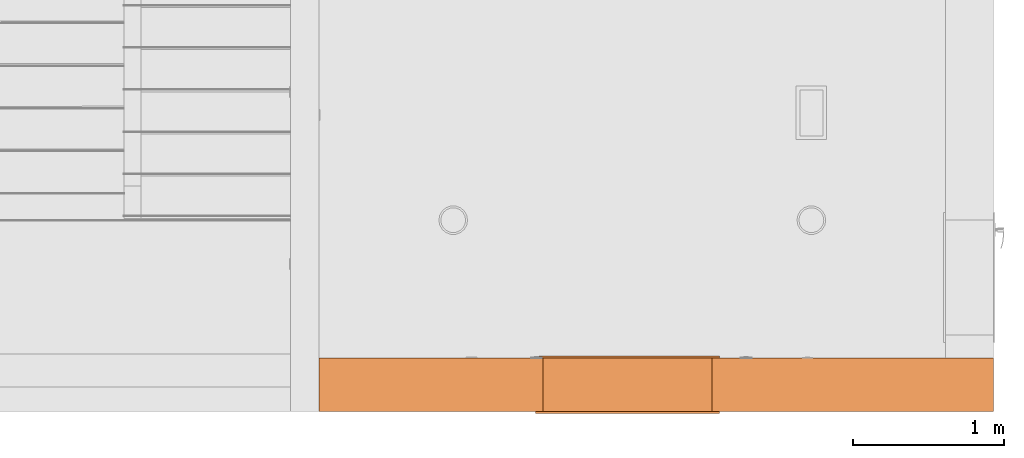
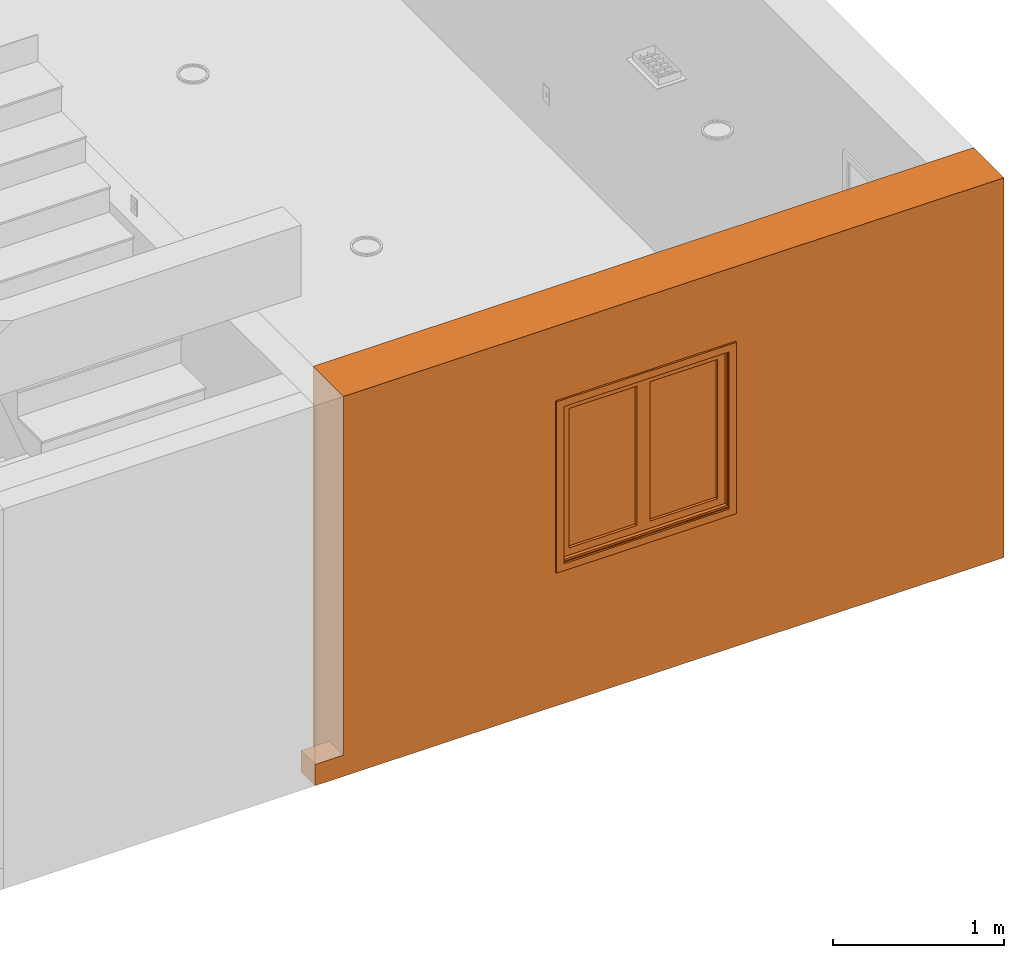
# One storey, part 36 of 48: 2 proxies.
"""IFC2X3 building model written with IfcOpenShell, lengths in inches."""

import ifcopenshell
import ifcopenshell.guid

model = None  # the IFC model being written
_history = None  # IfcOwnerHistory: only IFC2X3 demands one
_inside = {}  # id of a spatial element -> (the spatial element, [elements in it])
_under = {}  # id of a project, library or spatial element -> (it, [spatial elements below it])
_declared = {}  # id of a project -> (the project, [libraries it declares])
_typed = {}  # id of a type object -> (the type object, [elements of that type])
_made_of = {}  # id of a material, layer set ... -> (it, [elements and type objects made of it])


def new_model(schema):
    """Start an empty IFC model of exactly this schema.

    Asked for "IFC4X3", IfcOpenShell would pick the latest addendum, in which some entities
    have other attributes; the version numbers below select the first issue.
    IFC2X3 requires an IfcOwnerHistory on every rooted entity: one is made here for all.
    """
    global model, _history
    if schema == "IFC4X3":
        model = ifcopenshell.file(schema_version=(4, 3, 0, 0))
    else:
        model = ifcopenshell.file(schema=schema)
    _inside.clear()
    _under.clear()
    _declared.clear()
    _typed.clear()
    _made_of.clear()
    _history = None
    if model.schema == "IFC2X3":
        org = make("IfcOrganization", Name="unknown")
        user = make(
            "IfcPersonAndOrganization",
            ThePerson=make("IfcPerson", FamilyName="unknown"),
            TheOrganization=org,
        )
        app = make(
            "IfcApplication",
            ApplicationDeveloper=org,
            Version="unknown",
            ApplicationFullName="unknown",
            ApplicationIdentifier="unknown",
        )
        _history = make(
            "IfcOwnerHistory",
            OwningUser=user,
            OwningApplication=app,
            ChangeAction="ADDED",
            CreationDate=0,
        )
    return model


def make(cls, **values):
    """One entity of the class cls with the attributes given. An attribute that is None is left unset."""
    return model.create_entity(
        cls, **{name: value for name, value in values.items() if value is not None}
    )


def entity(cls, *values):
    """Any entity or typed value of the class cls, its attributes in the order of the schema. None: left unset."""
    e = model.create_entity(cls)
    for i, value in enumerate(values):
        if value is not None:
            e[i] = value
    return e


def rooted(cls, **values):
    """An entity with a GlobalId (a new one), such as an element, a storey or a relation."""
    return make(cls, GlobalId=ifcopenshell.guid.new(), OwnerHistory=_history, **values)


def si_unit(unit_type, name, prefix=None):
    """IfcSIUnit, for example si_unit("LENGTHUNIT", "METRE", prefix="MILLI")."""
    return make("IfcSIUnit", UnitType=unit_type, Prefix=prefix, Name=name)


def converted_unit(unit_type, name, factor, base, dimensions=None, offset=None):
    """IfcConversionBasedUnit, such as the inch: factor (a typed value) times the base unit."""
    return make(
        "IfcConversionBasedUnit"
        if offset is None
        else "IfcConversionBasedUnitWithOffset",
        ConversionOffset=offset,
        Dimensions=None
        if dimensions is None
        else entity("IfcDimensionalExponents", *dimensions),
        UnitType=unit_type,
        Name=name,
        ConversionFactor=make(
            "IfcMeasureWithUnit", ValueComponent=factor, UnitComponent=base
        ),
    )


def derived_unit(unit_type, elements):
    """IfcDerivedUnit: a product of units, each with its exponent."""
    return make(
        "IfcDerivedUnit",
        Elements=[
            make("IfcDerivedUnitElement", Unit=unit, Exponent=power)
            for unit, power in elements
        ],
        UnitType=unit_type,
    )


def money_unit(currency):
    """IfcMonetaryUnit."""
    return make("IfcMonetaryUnit", Currency=currency)


def assignment(units):
    """IfcUnitAssignment: the units of a project."""
    return None if units is None else make("IfcUnitAssignment", Units=units)


def point(xyz):
    """IfcCartesianPoint."""
    return None if xyz is None else make("IfcCartesianPoint", Coordinates=xyz)


def direction(xyz):
    """IfcDirection."""
    return None if xyz is None else make("IfcDirection", DirectionRatios=xyz)


def frame(location, z_axis=None, x_axis=None):
    """IfcAxis2Placement3D, a coordinate frame: its origin and axes. An axis left out is left unset."""
    return make(
        "IfcAxis2Placement3D",
        Location=point(location),
        Axis=direction(z_axis),
        RefDirection=direction(x_axis),
    )


def origin_with_axes():
    """The frame at (0, 0, 0) with the z axis (0, 0, 1) and the x axis (1, 0, 0) written out."""
    return frame((0.0, 0.0, 0.0), z_axis=(0.0, 0.0, 1.0), x_axis=(1.0, 0.0, 0.0))


def place(relative_to, where):
    """IfcLocalPlacement: puts the frame where relative to a parent placement (None: the world)."""
    return make(
        "IfcLocalPlacement", PlacementRelTo=relative_to, RelativePlacement=where
    )


def context(
    kind, dimensions, precision=None, world=None, true_north=None, identifier=None
):
    """IfcGeometricRepresentationContext, for example the 3D "Model" context."""
    return make(
        "IfcGeometricRepresentationContext",
        ContextIdentifier=identifier,
        ContextType=kind,
        CoordinateSpaceDimension=dimensions,
        Precision=precision,
        WorldCoordinateSystem=world,
        TrueNorth=true_north,
    )


def subcontext(parent, identifier, kind, view, scale=None):
    """IfcGeometricRepresentationSubContext, for example "Body" below "Model"."""
    return make(
        "IfcGeometricRepresentationSubContext",
        ContextIdentifier=identifier,
        ContextType=kind,
        ParentContext=parent,
        TargetScale=scale,
        TargetView=view,
    )


def project(units=None, contexts=None):
    """IfcProject with its units and contexts."""
    return rooted(
        "IfcProject",
        Name="project",
        RepresentationContexts=contexts,
        UnitsInContext=assignment(units),
    )


def spatial(cls, under=None, at=None, **own):
    """A site, building, storey or space (cls), placed at a placement, below another one or the project."""
    s = rooted(cls, ObjectPlacement=at, **own)
    if under is not None:
        _under.setdefault(under.id(), (under, []))[1].append(s)
    return s


def faces_of(points, faces, orient=None, outer=None):
    """IfcFace entities. A face is a list of loops; a loop is a list of indices into points, from 0.

    orient and outer hold one flag for each loop. By default every Orientation is true, the
    first loop of a face is its IfcFaceOuterBound and the others are IfcFaceBound.
    """
    made = []
    for i, loops in enumerate(faces):
        bounds = []
        for j, loop in enumerate(loops):
            is_outer = j == 0 if outer is None else outer[i][j]
            bounds.append(
                make(
                    "IfcFaceOuterBound" if is_outer else "IfcFaceBound",
                    Bound=make("IfcPolyLoop", Polygon=[points[k] for k in loop]),
                    Orientation=True if orient is None else orient[i][j],
                )
            )
        made.append(make("IfcFace", Bounds=bounds))
    return made


def faceted_brep(points, faces, orient=None, outer=None, voids=None):
    """IfcFacetedBrep: a solid bounded by flat faces; with voids (closed shells), ...WithVoids."""
    shared = [point(p) for p in points]
    hull = make("IfcClosedShell", CfsFaces=faces_of(shared, faces, orient, outer))
    if voids is None:
        return make("IfcFacetedBrep", Outer=hull)
    return make(
        "IfcFacetedBrepWithVoids",
        Outer=hull,
        Voids=[
            make(cls, CfsFaces=faces_of(shared, fs, o, b)) for cls, fs, o, b in voids
        ],
    )


def shape(context_of_items, identifier, shape_type, items):
    """IfcShapeRepresentation: the items that make up one representation, for example the "Body"."""
    return make(
        "IfcShapeRepresentation",
        ContextOfItems=context_of_items,
        RepresentationIdentifier=identifier,
        RepresentationType=shape_type,
        Items=items,
    )


def material(Name=None, Category=None):
    """IfcMaterial."""
    return make("IfcMaterial", Name=Name, Category=Category)


def made_of(thing, what):
    """Note that an element or type object is made of a material, layer set ...; save() writes the relation."""
    if what is not None:
        _made_of.setdefault(what.id(), (what, []))[1].append(thing)
    return thing


def type_object(cls, material=None, **own):
    """A type object (cls), such as IfcWallType, which elements share."""
    return made_of(rooted(cls, **own), material)


def element(
    cls,
    number,
    at=None,
    inside=None,
    cuts=None,
    type_object=None,
    material=None,
    context=None,
    identifier="Body",
    shape_type=None,
    held_by="IfcProductDefinitionShape",
    body=None,
    shapes=None,
    **own,
):
    """One element of the class cls, such as IfcWall. Its Tag is "e" and its number.

    at: its placement. inside: the storey or other place that contains it. cuts: it is an
    opening in that element (IfcRelVoidsElement). A single representation is given by context,
    identifier, shape_type and body (its items); several are given by shapes. held_by: the class
    of the entity that holds the representations. save() writes the other relations.
    """
    e = rooted(cls, Tag="e%d" % number, ObjectPlacement=at, **own)
    if body is not None:
        shapes = [shape(context, identifier, shape_type, body)]
    if shapes is not None:
        e.Representation = make(held_by, Representations=shapes)
    if inside is not None:
        _inside.setdefault(inside.id(), (inside, []))[1].append(e)
    if cuts is not None:
        rooted(
            "IfcRelVoidsElement", RelatingBuildingElement=cuts, RelatedOpeningElement=e
        )
    if type_object is not None:
        _typed.setdefault(type_object.id(), (type_object, []))[1].append(e)
    return made_of(e, material)


def aggregate(whole, parts):
    """IfcRelAggregates: a whole, such as a stair, and the parts it consists of."""
    return rooted("IfcRelAggregates", RelatingObject=whole, RelatedObjects=parts)


def save(model, path):
    """Write the relations noted so far, then the file.

    IfcRelAggregates (storeys below a building ...), IfcRelContainedInSpatialStructure (elements
    in a storey), IfcRelDefinesByType, IfcRelAssociatesMaterial and IfcRelDeclares: one each for
    every whole, place, type object, material and project.
    """
    for whole, parts in _under.values():
        aggregate(whole, parts)
    for where, things in _inside.values():
        rooted(
            "IfcRelContainedInSpatialStructure",
            RelatedElements=things,
            RelatingStructure=where,
        )
    for kind, things in _typed.values():
        rooted("IfcRelDefinesByType", RelatedObjects=things, RelatingType=kind)
    for what, things in _made_of.values():
        rooted("IfcRelAssociatesMaterial", RelatedObjects=things, RelatingMaterial=what)
    for by, libraries in _declared.values():
        rooted("IfcRelDeclares", RelatingContext=by, RelatedDefinitions=libraries)
    model.write(path)


model = new_model("IFC2X3")

# Units and contexts
model_context = context("Model", 3, precision=0.00039370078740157, world=origin_with_axes(), true_north=direction((0.0, 1.0)))
plan_context = context("Plan", 3, precision=0.00039370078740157, world=origin_with_axes(), true_north=direction((0.0, 1.0)))
body_context = subcontext(model_context, "Body", "Model", "MODEL_VIEW")
ifc_project = project(units=[converted_unit("LENGTHUNIT", "INCH", entity("IfcPositiveLengthMeasure", 0.0254), si_unit("LENGTHUNIT", "METRE"), dimensions=[1, 0, 0, 0, 0, 0, 0]), converted_unit("AREAUNIT", "SQUARE_FOOT", entity("IfcPositiveLengthMeasure", 0.09290304), si_unit("AREAUNIT", "SQUARE_METRE"), dimensions=[2, 0, 0, 0, 0, 0, 0]), si_unit("PLANEANGLEUNIT", "RADIAN"), si_unit("SOLIDANGLEUNIT", "STERADIAN"), money_unit("USD"), converted_unit("TIMEUNIT", "Year", entity("IfcTimeMeasure", 31557600.0), si_unit("TIMEUNIT", "SECOND"), dimensions=[0, 0, 1, 0, 0, 0, 0]), si_unit("MASSUNIT", "GRAM", prefix="KILO"), si_unit("THERMODYNAMICTEMPERATUREUNIT", "DEGREE_CELSIUS"), si_unit("LUMINOUSINTENSITYUNIT", "LUMEN"), si_unit("ENERGYUNIT", "JOULE", prefix="MEGA"), derived_unit("SPECIFICHEATCAPACITYUNIT", [(si_unit("ENERGYUNIT", "JOULE"), 1), (si_unit("MASSUNIT", "GRAM", prefix="KILO"), -1), (si_unit("THERMODYNAMICTEMPERATUREUNIT", "KELVIN"), -1)])], contexts=[model_context, plan_context])

# Site, building, storey
site_placement = place(None, origin_with_axes())
site = spatial("IfcSite", under=ifc_project, at=site_placement, Name="Site", CompositionType="ELEMENT")
building_placement = place(site_placement, origin_with_axes())
building = spatial("IfcBuilding", under=site, at=building_placement, Name="Building", CompositionType="ELEMENT")
storey_placement = place(building_placement, origin_with_axes())
storey = spatial("IfcBuildingStorey", under=building, at=storey_placement, Name="First Floor", CompositionType="ELEMENT", Elevation=0.0)

# Proxies
building_element_proxy_type_1 = type_object("IfcBuildingElementProxyType", Name="W Double Sash", PredefinedType="NOTDEFINED")
proxy_1_placement = place(storey_placement, frame((354.4999999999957, 14.00000000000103, 33.99999999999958), z_axis=(0.0, 0.0, 1.0), x_axis=(-1.0, 0.0, 0.0)))
element("IfcBuildingElementProxy", 1, at=proxy_1_placement, inside=storey, type_object=building_element_proxy_type_1, Name="W-02", context=body_context, shape_type="Brep", body=[
    faceted_brep([(43.99999999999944, 9.499999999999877, 0.0), (43.99999999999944, 0.0, 0.0), (0.0, 0.0, 0.0), (0.0, 9.499999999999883, 0.0), (43.99999999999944, 9.499999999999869, 43.99999999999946), (43.99999999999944, 0.0, 43.99999999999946), (0.0, 0.0, 43.99999999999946), (43.49999999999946, 0.0, 0.4999999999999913), (0.5000000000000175, 0.0, 0.4999999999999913), (0.5000000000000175, 0.0, 43.49999999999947), (43.49999999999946, 0.0, 43.49999999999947), (0.0, 9.499999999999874, 43.99999999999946), (43.49999999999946, 9.499999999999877, 0.4999999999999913), (43.49999999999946, 9.499999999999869, 43.49999999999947), (0.5000000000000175, 9.499999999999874, 43.49999999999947), (0.5000000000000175, 9.499999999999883, 0.4999999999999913)], [[[0, 1, 2, 3]], [[4, 5, 1, 0]], [[1, 5, 6, 2], [7, 8, 9, 10]], [[3, 2, 6, 11]], [[0, 3, 11, 4], [12, 13, 14, 15]], [[11, 6, 5, 4]], [[15, 8, 7, 12]], [[14, 9, 8, 15]], [[13, 10, 9, 14]], [[12, 7, 10, 13]]]),
    faceted_brep([(45.99999999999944, -0.4999999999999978, -1.999999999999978), (43.99999999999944, -0.4999999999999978, 0.0), (43.99999999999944, 0.0, 0.0), (45.99999999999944, 0.0, -1.999999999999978), (45.99999999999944, -0.5000000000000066, 45.99999999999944), (43.99999999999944, -0.5000000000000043, 43.99999999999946), (43.99999999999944, 0.0, 43.99999999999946), (45.99999999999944, 0.0, 45.99999999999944)], [[[0, 1, 2, 3]], [[0, 4, 5, 1]], [[1, 5, 6, 2]], [[3, 2, 6, 7]], [[4, 0, 3, 7]], [[5, 4, 7, 6]]]),
    faceted_brep([(-2.0, -0.5000000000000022, 45.99999999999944), (0.0, -0.5, 43.99999999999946), (0.0, 0.0, 43.99999999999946), (-2.0, 0.0, 45.99999999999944), (-2.0, -0.4999999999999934, -1.999999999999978), (0.0, -0.4999999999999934, 0.0), (0.0, 0.0, 0.0), (-2.0, 0.0, -1.999999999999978)], [[[0, 1, 2, 3]], [[0, 4, 5, 1]], [[1, 5, 6, 2]], [[3, 2, 6, 7]], [[4, 0, 3, 7]], [[5, 4, 7, 6]]]),
    faceted_brep([(-2.0, -0.4999999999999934, -1.999999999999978), (0.0, -0.4999999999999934, 0.0), (0.0, 0.0, 0.0), (-2.0, 0.0, -1.999999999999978), (45.99999999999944, -0.4999999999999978, -1.999999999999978), (43.99999999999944, -0.4999999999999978, 0.0), (43.99999999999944, 0.0, 0.0), (45.99999999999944, 0.0, -1.999999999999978)], [[[0, 1, 2, 3]], [[0, 4, 5, 1]], [[1, 5, 6, 2]], [[3, 2, 6, 7]], [[4, 0, 3, 7]], [[5, 4, 7, 6]]]),
    faceted_brep([(45.99999999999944, -0.5000000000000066, 45.99999999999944), (43.99999999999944, -0.5000000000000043, 43.99999999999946), (43.99999999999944, 0.0, 43.99999999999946), (45.99999999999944, 0.0, 45.99999999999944), (-2.0, -0.5000000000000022, 45.99999999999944), (0.0, -0.5, 43.99999999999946), (0.0, 0.0, 43.99999999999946), (-2.0, 0.0, 45.99999999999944)], [[[0, 1, 2, 3]], [[0, 4, 5, 1]], [[1, 5, 6, 2]], [[3, 2, 6, 7]], [[4, 0, 3, 7]], [[5, 4, 7, 6]]]),
    faceted_brep([(45.99999999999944, 14.49999999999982, -2.249999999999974), (45.99999999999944, 13.99999999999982, -2.249999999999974), (43.99999999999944, 13.99999999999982, -0.2499999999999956), (43.99999999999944, 14.49999999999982, -0.2499999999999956), (45.99999999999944, 14.49999999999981, 45.99999999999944), (45.99999999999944, 13.99999999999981, 45.99999999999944), (43.99999999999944, 13.99999999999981, 43.99999999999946), (43.99999999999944, 14.49999999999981, 43.99999999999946)], [[[0, 1, 2, 3]], [[4, 5, 1, 0]], [[1, 5, 6, 2]], [[3, 2, 6, 7]], [[0, 3, 7, 4]], [[7, 6, 5, 4]]]),
    faceted_brep([(-2.0, 14.49999999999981, 45.99999999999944), (-2.0, 13.99999999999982, 45.99999999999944), (0.0, 13.99999999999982, 43.99999999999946), (0.0, 14.49999999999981, 43.99999999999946), (-2.0, 14.49999999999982, -2.249999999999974), (-2.0, 13.99999999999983, -2.249999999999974), (0.0, 13.99999999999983, -0.2499999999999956), (0.0, 14.49999999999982, -0.2499999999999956)], [[[0, 1, 2, 3]], [[4, 5, 1, 0]], [[1, 5, 6, 2]], [[3, 2, 6, 7]], [[0, 3, 7, 4]], [[7, 6, 5, 4]]]),
    faceted_brep([(-2.0, 14.49999999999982, -2.249999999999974), (-2.0, 13.99999999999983, -2.249999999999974), (0.0, 13.99999999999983, -0.2499999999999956), (0.0, 14.49999999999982, -0.2499999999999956), (45.99999999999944, 14.49999999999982, -2.249999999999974), (45.99999999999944, 13.99999999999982, -2.249999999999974), (43.99999999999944, 13.99999999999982, -0.2499999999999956), (43.99999999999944, 14.49999999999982, -0.2499999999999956)], [[[0, 1, 2, 3]], [[4, 5, 1, 0]], [[1, 5, 6, 2]], [[3, 2, 6, 7]], [[0, 3, 7, 4]], [[7, 6, 5, 4]]]),
    faceted_brep([(45.99999999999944, 14.49999999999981, 45.99999999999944), (45.99999999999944, 13.99999999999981, 45.99999999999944), (43.99999999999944, 13.99999999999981, 43.99999999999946), (43.99999999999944, 14.49999999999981, 43.99999999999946), (-2.0, 14.49999999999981, 45.99999999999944), (-2.0, 13.99999999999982, 45.99999999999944), (0.0, 13.99999999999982, 43.99999999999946), (0.0, 14.49999999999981, 43.99999999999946)], [[[0, 1, 2, 3]], [[4, 5, 1, 0]], [[1, 5, 6, 2]], [[3, 2, 6, 7]], [[0, 3, 7, 4]], [[7, 6, 5, 4]]]),
    faceted_brep([(43.50039370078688, 9.499999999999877, 0.7539370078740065), (43.99999999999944, 9.499999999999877, 0.7539370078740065), (43.99999999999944, 9.499999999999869, 43.49606299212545), (43.50039370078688, 9.499999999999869, 43.49606299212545), (43.50039370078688, 11.24999999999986, 0.7539370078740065), (43.74999999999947, 11.24999999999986, 0.7539370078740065), (43.74999999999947, 13.99999999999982, 0.7539370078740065), (43.99999999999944, 13.99999999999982, 0.7539370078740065), (43.99999999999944, 13.99999999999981, 43.49606299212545), (43.74999999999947, 13.99999999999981, 43.49606299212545), (43.74999999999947, 11.24999999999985, 43.49606299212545), (43.50039370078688, 11.24999999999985, 43.49606299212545)], [[[0, 1, 2, 3]], [[4, 5, 6, 7, 1, 0]], [[7, 8, 2, 1]], [[3, 2, 8, 9, 10, 11]], [[11, 4, 0, 3]], [[11, 10, 5, 4]], [[5, 10, 9, 6]], [[7, 6, 9, 8]]]),
    faceted_brep([(0.4996062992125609, 11.24999999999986, 43.49606299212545), (0.2499999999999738, 11.24999999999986, 43.49606299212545), (0.2499999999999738, 13.99999999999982, 43.49606299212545), (0.0, 13.99999999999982, 43.49606299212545), (0.0, 9.499999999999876, 43.49606299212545), (0.4996062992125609, 9.499999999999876, 43.49606299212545), (0.4996062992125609, 11.24999999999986, 0.7539370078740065), (0.2499999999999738, 11.24999999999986, 0.7539370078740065), (0.2499999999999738, 13.99999999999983, 0.7539370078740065), (0.0, 13.99999999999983, 0.7539370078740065), (0.0, 9.499999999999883, 0.7539370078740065), (0.4996062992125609, 9.499999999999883, 0.7539370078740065)], [[[0, 1, 2, 3, 4, 5]], [[6, 7, 1, 0]], [[7, 8, 2, 1]], [[3, 2, 8, 9]], [[3, 9, 10, 4]], [[5, 4, 10, 11]], [[11, 6, 0, 5]], [[11, 10, 9, 8, 7, 6]]]),
    faceted_brep([(43.50039370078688, 11.24999999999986, 0.7496062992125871), (43.50039370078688, 11.24999999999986, 0.7539370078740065), (43.74999999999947, 11.24999999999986, 0.7539370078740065), (43.74999999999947, 11.24999999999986, 0.4999999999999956), (0.2499999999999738, 11.24999999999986, 0.4999999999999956), (0.2499999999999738, 11.24999999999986, 0.7539370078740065), (0.4996062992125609, 11.24999999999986, 0.7539370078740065), (0.4996062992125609, 11.24999999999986, 0.7496062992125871), (22.00039370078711, 11.24999999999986, 0.7496062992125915), (43.50039370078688, 9.499999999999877, 0.7496062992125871), (43.50039370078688, 9.499999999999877, 0.7539370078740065), (43.99999999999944, 9.499999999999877, 0.7539370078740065), (43.99999999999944, 13.99999999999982, 0.7539370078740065), (43.74999999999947, 13.99999999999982, 0.7539370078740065), (43.74999999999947, 13.99999999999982, 0.4999999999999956), (0.2499999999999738, 13.99999999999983, 0.4999999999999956), (0.2499999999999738, 13.99999999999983, 0.7539370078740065), (0.0, 13.99999999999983, 0.7539370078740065), (0.0, 9.499999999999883, 0.7539370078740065), (0.4996062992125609, 9.499999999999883, 0.7539370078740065), (0.4996062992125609, 9.499999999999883, 0.7496062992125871), (22.00039370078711, 9.49999999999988, 0.7496062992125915), (0.0, 9.499999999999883, 0.0), (43.99999999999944, 9.499999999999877, 0.0), (43.99999999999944, 13.99999999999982, 0.0), (0.0, 13.99999999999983, 0.0)], [[[0, 1, 2, 3, 4, 5, 6, 7, 8]], [[1, 0, 9, 10]], [[10, 11, 12, 13, 2, 1]], [[14, 3, 2, 13]], [[3, 14, 15, 4]], [[5, 4, 15, 16]], [[17, 18, 19, 6, 5, 16]], [[19, 20, 7, 6]], [[9, 0, 8, 7, 20, 21]], [[9, 21, 20, 19, 18, 22, 23, 11, 10]], [[23, 24, 12, 11]], [[17, 16, 15, 14, 13, 12, 24, 25]], [[18, 17, 25, 22]], [[22, 25, 24, 23]]]),
    faceted_brep([(43.50039370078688, 9.499999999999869, 43.49606299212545), (43.99999999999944, 9.499999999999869, 43.49606299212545), (43.99999999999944, 9.499999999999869, 43.99999999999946), (0.0, 9.499999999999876, 43.99999999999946), (0.0, 9.499999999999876, 43.49606299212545), (0.4996062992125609, 9.499999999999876, 43.49606299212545), (0.4996062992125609, 9.499999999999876, 43.50039370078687), (22.00039370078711, 9.499999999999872, 43.50039370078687), (43.50039370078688, 9.499999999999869, 43.50039370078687), (43.50039370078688, 11.24999999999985, 43.49606299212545), (43.74999999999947, 11.24999999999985, 43.49606299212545), (43.74999999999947, 13.99999999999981, 43.49606299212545), (43.99999999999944, 13.99999999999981, 43.49606299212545), (43.99999999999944, 13.99999999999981, 43.99999999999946), (0.0, 13.99999999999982, 43.99999999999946), (0.0, 13.99999999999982, 43.49606299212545), (0.2499999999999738, 13.99999999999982, 43.49606299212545), (0.2499999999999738, 11.24999999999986, 43.49606299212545), (0.4996062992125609, 11.24999999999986, 43.49606299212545), (0.4996062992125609, 11.24999999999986, 43.50039370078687), (22.00039370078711, 11.24999999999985, 43.50039370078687), (43.50039370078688, 11.24999999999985, 43.50039370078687), (0.2499999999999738, 11.24999999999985, 43.74999999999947), (43.74999999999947, 11.24999999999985, 43.74999999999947), (43.74999999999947, 13.99999999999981, 43.74999999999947), (0.2499999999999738, 13.99999999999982, 43.74999999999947)], [[[0, 1, 2, 3, 4, 5, 6, 7, 8]], [[9, 10, 11, 12, 1, 0]], [[1, 12, 13, 2]], [[2, 13, 14, 3]], [[3, 14, 15, 4]], [[16, 17, 18, 5, 4, 15]], [[6, 5, 18, 19]], [[7, 6, 19, 20, 21, 8]], [[8, 21, 9, 0]], [[21, 20, 19, 18, 17, 22, 23, 10, 9]], [[10, 23, 24, 11]], [[11, 24, 25, 16, 15, 14, 13, 12]], [[22, 17, 16, 25]], [[23, 22, 25, 24]]]),
    faceted_brep([(20.24999999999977, 11.24999999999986, 2.499999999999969), (20.24999999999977, 11.24999999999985, 41.7499999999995), (20.24999999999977, 12.12499999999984, 41.7499999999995), (20.24999999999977, 12.12499999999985, 2.499999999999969), (22.24999999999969, 11.24999999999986, 2.499999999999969), (22.24999999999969, 11.24999999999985, 41.7499999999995), (22.24999999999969, 12.12499999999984, 41.7499999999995), (22.24999999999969, 12.12499999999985, 2.499999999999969)], [[[0, 1, 2, 3]], [[0, 4, 5, 1]], [[1, 5, 6, 2]], [[3, 2, 6, 7]], [[4, 0, 3, 7]], [[5, 4, 7, 6]]]),
    faceted_brep([(0.2499999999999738, 11.24999999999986, 2.499999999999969), (0.2499999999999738, 11.24999999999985, 41.7499999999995), (0.2499999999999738, 12.12499999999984, 41.7499999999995), (0.2499999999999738, 12.12499999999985, 2.499999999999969), (2.249999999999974, 11.24999999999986, 2.499999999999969), (2.249999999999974, 11.24999999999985, 41.7499999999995), (2.249999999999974, 12.12499999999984, 41.7499999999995), (2.249999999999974, 12.12499999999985, 2.499999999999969)], [[[0, 1, 2, 3]], [[0, 4, 5, 1]], [[1, 5, 6, 2]], [[3, 2, 6, 7]], [[4, 0, 3, 7]], [[5, 4, 7, 6]]]),
    faceted_brep([(0.2499999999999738, 11.24999999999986, 0.4999999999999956), (0.2499999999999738, 11.24999999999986, 2.499999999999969), (0.2499999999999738, 12.12499999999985, 2.499999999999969), (0.2499999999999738, 12.12499999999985, 0.4999999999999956), (22.24999999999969, 11.24999999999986, 0.4999999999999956), (22.24999999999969, 11.24999999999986, 2.499999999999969), (20.24999999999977, 11.24999999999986, 2.499999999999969), (12.24999999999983, 11.24999999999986, 2.499999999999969), (10.2499999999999, 11.24999999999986, 2.499999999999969), (2.249999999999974, 11.24999999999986, 2.499999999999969), (2.249999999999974, 12.12499999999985, 2.499999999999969), (10.2499999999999, 12.12499999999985, 2.499999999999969), (12.24999999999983, 12.12499999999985, 2.499999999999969), (20.24999999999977, 12.12499999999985, 2.499999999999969), (22.24999999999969, 12.12499999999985, 2.499999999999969), (22.24999999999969, 12.12499999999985, 0.4999999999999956)], [[[0, 1, 2, 3]], [[0, 4, 5, 6, 7, 8, 9, 1]], [[1, 9, 10, 2]], [[3, 2, 10, 11, 12, 13, 14, 15]], [[4, 0, 3, 15]], [[5, 4, 15, 14]], [[6, 5, 14, 13]], [[7, 6, 13, 12]], [[8, 7, 12, 11]], [[9, 8, 11, 10]]]),
    faceted_brep([(22.24999999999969, 11.24999999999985, 43.74999999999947), (22.24999999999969, 11.24999999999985, 41.7499999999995), (22.24999999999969, 12.12499999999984, 41.7499999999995), (22.24999999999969, 12.12499999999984, 43.74999999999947), (0.2499999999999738, 11.24999999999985, 43.74999999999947), (0.2499999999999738, 11.24999999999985, 41.7499999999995), (2.249999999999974, 11.24999999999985, 41.7499999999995), (10.2499999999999, 11.24999999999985, 41.7499999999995), (12.24999999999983, 11.24999999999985, 41.7499999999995), (20.24999999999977, 11.24999999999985, 41.7499999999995), (20.24999999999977, 12.12499999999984, 41.7499999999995), (12.24999999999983, 12.12499999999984, 41.7499999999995), (10.2499999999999, 12.12499999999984, 41.7499999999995), (2.249999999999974, 12.12499999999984, 41.7499999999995), (0.2499999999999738, 12.12499999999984, 41.7499999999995), (0.2499999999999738, 12.12499999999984, 43.74999999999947)], [[[0, 1, 2, 3]], [[0, 4, 5, 6, 7, 8, 9, 1]], [[1, 9, 10, 2]], [[3, 2, 10, 11, 12, 13, 14, 15]], [[4, 0, 3, 15]], [[5, 4, 15, 14]], [[6, 5, 14, 13]], [[7, 6, 13, 12]], [[8, 7, 12, 11]], [[9, 8, 11, 10]]]),
    faceted_brep([(20.24999999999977, 12.12499999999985, 2.499999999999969), (20.24999999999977, 12.12499999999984, 41.7499999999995), (20.24999999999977, 12.99999999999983, 41.7499999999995), (20.24999999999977, 12.99999999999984, 2.499999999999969), (22.24999999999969, 12.12499999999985, 2.499999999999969), (22.24999999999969, 12.12499999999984, 41.7499999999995), (22.24999999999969, 12.99999999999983, 41.7499999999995), (22.24999999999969, 12.99999999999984, 2.499999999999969)], [[[0, 1, 2, 3]], [[0, 4, 5, 1]], [[1, 5, 6, 2]], [[3, 2, 6, 7]], [[4, 0, 3, 7]], [[5, 4, 7, 6]]]),
    faceted_brep([(0.2499999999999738, 12.12499999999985, 2.499999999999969), (0.2499999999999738, 12.12499999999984, 41.7499999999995), (0.2499999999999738, 12.99999999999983, 41.7499999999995), (0.2499999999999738, 12.99999999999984, 2.499999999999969), (2.249999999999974, 12.12499999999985, 2.499999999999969), (2.249999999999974, 12.12499999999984, 41.7499999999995), (2.249999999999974, 12.99999999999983, 41.7499999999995), (2.249999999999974, 12.99999999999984, 2.499999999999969)], [[[0, 1, 2, 3]], [[0, 4, 5, 1]], [[1, 5, 6, 2]], [[3, 2, 6, 7]], [[4, 0, 3, 7]], [[5, 4, 7, 6]]]),
    faceted_brep([(0.2499999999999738, 12.12499999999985, 0.4999999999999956), (0.2499999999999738, 12.12499999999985, 2.499999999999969), (0.2499999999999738, 12.99999999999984, 2.499999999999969), (0.2499999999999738, 12.99999999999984, 0.4999999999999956), (22.24999999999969, 12.12499999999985, 0.4999999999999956), (22.24999999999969, 12.12499999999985, 2.499999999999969), (20.24999999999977, 12.12499999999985, 2.499999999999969), (12.24999999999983, 12.12499999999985, 2.499999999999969), (10.2499999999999, 12.12499999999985, 2.499999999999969), (2.249999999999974, 12.12499999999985, 2.499999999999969), (2.249999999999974, 12.99999999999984, 2.499999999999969), (10.2499999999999, 12.99999999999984, 2.499999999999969), (12.24999999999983, 12.99999999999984, 2.499999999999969), (20.24999999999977, 12.99999999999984, 2.499999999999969), (22.24999999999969, 12.99999999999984, 2.499999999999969), (22.24999999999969, 12.99999999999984, 0.4999999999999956)], [[[0, 1, 2, 3]], [[0, 4, 5, 6, 7, 8, 9, 1]], [[1, 9, 10, 2]], [[3, 2, 10, 11, 12, 13, 14, 15]], [[4, 0, 3, 15]], [[5, 4, 15, 14]], [[6, 5, 14, 13]], [[7, 6, 13, 12]], [[8, 7, 12, 11]], [[9, 8, 11, 10]]]),
    faceted_brep([(22.24999999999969, 12.12499999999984, 43.74999999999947), (22.24999999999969, 12.12499999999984, 41.7499999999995), (22.24999999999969, 12.99999999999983, 41.7499999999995), (22.24999999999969, 12.99999999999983, 43.74999999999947), (0.2499999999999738, 12.12499999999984, 43.74999999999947), (0.2499999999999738, 12.12499999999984, 41.7499999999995), (2.249999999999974, 12.12499999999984, 41.7499999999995), (10.2499999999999, 12.12499999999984, 41.7499999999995), (12.24999999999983, 12.12499999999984, 41.7499999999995), (20.24999999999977, 12.12499999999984, 41.7499999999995), (20.24999999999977, 12.99999999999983, 41.7499999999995), (12.24999999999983, 12.99999999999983, 41.7499999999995), (10.2499999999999, 12.99999999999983, 41.7499999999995), (2.249999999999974, 12.99999999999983, 41.7499999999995), (0.2499999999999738, 12.99999999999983, 41.7499999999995), (0.2499999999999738, 12.99999999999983, 43.74999999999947)], [[[0, 1, 2, 3]], [[0, 4, 5, 6, 7, 8, 9, 1]], [[1, 9, 10, 2]], [[3, 2, 10, 11, 12, 13, 14, 15]], [[4, 0, 3, 15]], [[5, 4, 15, 14]], [[6, 5, 14, 13]], [[7, 6, 13, 12]], [[8, 7, 12, 11]], [[9, 8, 11, 10]]]),
    faceted_brep([(20.24999999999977, 11.99999999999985, 2.499999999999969), (2.249999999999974, 11.99999999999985, 2.499999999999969), (2.249999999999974, 12.24999999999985, 2.499999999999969), (20.24999999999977, 12.24999999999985, 2.499999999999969), (20.24999999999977, 11.99999999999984, 41.7499999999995), (2.249999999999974, 11.99999999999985, 41.7499999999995), (2.249999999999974, 12.24999999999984, 41.7499999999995), (20.24999999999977, 12.24999999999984, 41.7499999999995)], [[[0, 1, 2, 3]], [[0, 4, 5, 1]], [[1, 5, 6, 2]], [[3, 2, 6, 7]], [[4, 0, 3, 7]], [[5, 4, 7, 6]]]),
    faceted_brep([(41.74999999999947, 11.24999999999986, 2.499999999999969), (41.74999999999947, 11.24999999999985, 41.7499999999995), (41.74999999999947, 12.12499999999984, 41.7499999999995), (41.74999999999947, 12.12499999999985, 2.499999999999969), (43.74999999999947, 11.24999999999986, 2.499999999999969), (43.74999999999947, 11.24999999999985, 41.7499999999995), (43.74999999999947, 12.12499999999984, 41.7499999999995), (43.74999999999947, 12.12499999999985, 2.499999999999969)], [[[0, 1, 2, 3]], [[0, 4, 5, 1]], [[1, 5, 6, 2]], [[3, 2, 6, 7]], [[4, 0, 3, 7]], [[5, 4, 7, 6]]]),
    faceted_brep([(21.74999999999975, 11.24999999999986, 2.499999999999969), (21.74999999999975, 11.24999999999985, 41.7499999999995), (21.74999999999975, 12.12499999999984, 41.7499999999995), (21.74999999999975, 12.12499999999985, 2.499999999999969), (23.74999999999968, 11.24999999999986, 2.499999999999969), (23.74999999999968, 11.24999999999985, 41.7499999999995), (23.74999999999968, 12.12499999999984, 41.7499999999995), (23.74999999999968, 12.12499999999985, 2.499999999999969)], [[[0, 1, 2, 3]], [[0, 4, 5, 1]], [[1, 5, 6, 2]], [[3, 2, 6, 7]], [[4, 0, 3, 7]], [[5, 4, 7, 6]]]),
    faceted_brep([(21.74999999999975, 11.24999999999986, 0.4999999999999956), (21.74999999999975, 11.24999999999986, 2.499999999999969), (21.74999999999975, 12.12499999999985, 2.499999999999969), (21.74999999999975, 12.12499999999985, 0.4999999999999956), (43.74999999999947, 11.24999999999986, 0.4999999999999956), (43.74999999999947, 11.24999999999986, 2.499999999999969), (41.74999999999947, 11.24999999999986, 2.499999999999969), (33.74999999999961, 11.24999999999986, 2.499999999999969), (31.74999999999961, 11.24999999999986, 2.499999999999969), (23.74999999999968, 11.24999999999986, 2.499999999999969), (23.74999999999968, 12.12499999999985, 2.499999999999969), (31.74999999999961, 12.12499999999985, 2.499999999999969), (33.74999999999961, 12.12499999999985, 2.499999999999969), (41.74999999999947, 12.12499999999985, 2.499999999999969), (43.74999999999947, 12.12499999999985, 2.499999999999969), (43.74999999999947, 12.12499999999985, 0.4999999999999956)], [[[0, 1, 2, 3]], [[0, 4, 5, 6, 7, 8, 9, 1]], [[1, 9, 10, 2]], [[3, 2, 10, 11, 12, 13, 14, 15]], [[4, 0, 3, 15]], [[5, 4, 15, 14]], [[6, 5, 14, 13]], [[7, 6, 13, 12]], [[8, 7, 12, 11]], [[9, 8, 11, 10]]]),
    faceted_brep([(43.74999999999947, 11.24999999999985, 43.74999999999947), (43.74999999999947, 11.24999999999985, 41.7499999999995), (43.74999999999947, 12.12499999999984, 41.7499999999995), (43.74999999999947, 12.12499999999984, 43.74999999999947), (21.74999999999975, 11.24999999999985, 43.74999999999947), (21.74999999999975, 11.24999999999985, 41.7499999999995), (23.74999999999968, 11.24999999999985, 41.7499999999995), (31.74999999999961, 11.24999999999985, 41.7499999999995), (33.74999999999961, 11.24999999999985, 41.7499999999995), (41.74999999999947, 11.24999999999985, 41.7499999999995), (41.74999999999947, 12.12499999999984, 41.7499999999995), (33.74999999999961, 12.12499999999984, 41.7499999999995), (31.74999999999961, 12.12499999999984, 41.7499999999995), (23.74999999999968, 12.12499999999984, 41.7499999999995), (21.74999999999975, 12.12499999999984, 41.7499999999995), (21.74999999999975, 12.12499999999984, 43.74999999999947)], [[[0, 1, 2, 3]], [[0, 4, 5, 6, 7, 8, 9, 1]], [[1, 9, 10, 2]], [[3, 2, 10, 11, 12, 13, 14, 15]], [[4, 0, 3, 15]], [[5, 4, 15, 14]], [[6, 5, 14, 13]], [[7, 6, 13, 12]], [[8, 7, 12, 11]], [[9, 8, 11, 10]]]),
    faceted_brep([(41.74999999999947, 12.12499999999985, 2.499999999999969), (41.74999999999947, 12.12499999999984, 41.7499999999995), (41.74999999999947, 12.99999999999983, 41.7499999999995), (41.74999999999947, 12.99999999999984, 2.499999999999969), (43.74999999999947, 12.12499999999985, 2.499999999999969), (43.74999999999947, 12.12499999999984, 41.7499999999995), (43.74999999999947, 12.99999999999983, 41.7499999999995), (43.74999999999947, 12.99999999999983, 2.499999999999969)], [[[0, 1, 2, 3]], [[0, 4, 5, 1]], [[1, 5, 6, 2]], [[3, 2, 6, 7]], [[4, 0, 3, 7]], [[5, 4, 7, 6]]]),
    faceted_brep([(21.74999999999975, 12.12499999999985, 2.499999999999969), (21.74999999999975, 12.12499999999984, 41.7499999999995), (21.74999999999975, 12.99999999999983, 41.7499999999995), (21.74999999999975, 12.99999999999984, 2.499999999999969), (23.74999999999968, 12.12499999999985, 2.499999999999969), (23.74999999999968, 12.12499999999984, 41.7499999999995), (23.74999999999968, 12.99999999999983, 41.7499999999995), (23.74999999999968, 12.99999999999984, 2.499999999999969)], [[[0, 1, 2, 3]], [[0, 4, 5, 1]], [[1, 5, 6, 2]], [[3, 2, 6, 7]], [[4, 0, 3, 7]], [[5, 4, 7, 6]]]),
    faceted_brep([(21.74999999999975, 12.12499999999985, 0.4999999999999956), (21.74999999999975, 12.12499999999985, 2.499999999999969), (21.74999999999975, 12.99999999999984, 2.499999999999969), (21.74999999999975, 12.99999999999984, 0.4999999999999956), (43.74999999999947, 12.12499999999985, 0.4999999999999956), (43.74999999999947, 12.12499999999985, 2.499999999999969), (41.74999999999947, 12.12499999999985, 2.499999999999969), (33.74999999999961, 12.12499999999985, 2.499999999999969), (31.74999999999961, 12.12499999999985, 2.499999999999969), (23.74999999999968, 12.12499999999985, 2.499999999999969), (23.74999999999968, 12.99999999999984, 2.499999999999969), (31.74999999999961, 12.99999999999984, 2.499999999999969), (33.74999999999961, 12.99999999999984, 2.499999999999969), (41.74999999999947, 12.99999999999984, 2.499999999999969), (43.74999999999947, 12.99999999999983, 2.499999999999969), (43.74999999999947, 12.99999999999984, 0.4999999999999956)], [[[0, 1, 2, 3]], [[0, 4, 5, 6, 7, 8, 9, 1]], [[1, 9, 10, 2]], [[3, 2, 10, 11, 12, 13, 14, 15]], [[4, 0, 3, 15]], [[5, 4, 15, 14]], [[6, 5, 14, 13]], [[7, 6, 13, 12]], [[8, 7, 12, 11]], [[9, 8, 11, 10]]]),
    faceted_brep([(43.74999999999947, 12.12499999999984, 43.74999999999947), (43.74999999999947, 12.12499999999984, 41.7499999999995), (43.74999999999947, 12.99999999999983, 41.7499999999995), (43.74999999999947, 12.99999999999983, 43.74999999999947), (21.74999999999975, 12.12499999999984, 43.74999999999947), (21.74999999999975, 12.12499999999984, 41.7499999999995), (23.74999999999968, 12.12499999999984, 41.7499999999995), (31.74999999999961, 12.12499999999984, 41.7499999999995), (33.74999999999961, 12.12499999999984, 41.7499999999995), (41.74999999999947, 12.12499999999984, 41.7499999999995), (41.74999999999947, 12.99999999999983, 41.7499999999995), (33.74999999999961, 12.99999999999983, 41.7499999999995), (31.74999999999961, 12.99999999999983, 41.7499999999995), (23.74999999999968, 12.99999999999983, 41.7499999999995), (21.74999999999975, 12.99999999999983, 41.7499999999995), (21.74999999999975, 12.99999999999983, 43.74999999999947)], [[[0, 1, 2, 3]], [[0, 4, 5, 6, 7, 8, 9, 1]], [[1, 9, 10, 2]], [[3, 2, 10, 11, 12, 13, 14, 15]], [[4, 0, 3, 15]], [[5, 4, 15, 14]], [[6, 5, 14, 13]], [[7, 6, 13, 12]], [[8, 7, 12, 11]], [[9, 8, 11, 10]]]),
    faceted_brep([(41.74999999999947, 11.99999999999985, 2.499999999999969), (23.74999999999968, 11.99999999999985, 2.499999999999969), (23.74999999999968, 12.24999999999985, 2.499999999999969), (41.74999999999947, 12.24999999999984, 2.499999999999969), (41.74999999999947, 11.99999999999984, 41.7499999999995), (23.74999999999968, 11.99999999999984, 41.7499999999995), (23.74999999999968, 12.24999999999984, 41.7499999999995), (41.74999999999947, 12.24999999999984, 41.7499999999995)], [[[0, 1, 2, 3]], [[0, 4, 5, 1]], [[1, 5, 6, 2]], [[3, 2, 6, 7]], [[4, 0, 3, 7]], [[5, 4, 7, 6]]]),
])
ifc_material = material(Name="Generic - Structural")
building_element_proxy_type_2 = type_object("IfcBuildingElementProxyType", Name="Generic - Structural 14\"", PredefinedType="NOTDEFINED")
proxy_2_placement = place(storey_placement, frame((244.4999999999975, 14.00000000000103, -5.99999999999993), z_axis=(0.0, 0.0, 1.0), x_axis=(1.0, 0.0, 0.0)))
element("IfcBuildingElementProxy", 2, at=proxy_2_placement, inside=storey, type_object=building_element_proxy_type_2, material=ifc_material, Name="SW - 063", context=body_context, shape_type="Brep", body=[
    faceted_brep([(0.0, -14.00000000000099, 5.99999999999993), (0.0, -13.99999999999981, 0.0), (183.4999999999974, -13.99999999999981, 0.0), (183.4999999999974, -13.99999999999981, 106.9999999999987), (7.499999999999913, -14.00000002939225, 106.9999999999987), (7.499999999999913, -14.00000002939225, 5.99999999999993), (65.99999999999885, -13.99999999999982, 39.99999999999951), (65.99999999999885, -13.99999999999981, 83.99999999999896), (109.9999999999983, -13.99999999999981, 83.99999999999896), (109.9999999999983, -13.99999999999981, 39.99999999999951), (0.0, -7.499999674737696, 5.99999999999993), (0.0, -7.499999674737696, 0.0), (183.4999999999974, 0.0, 0.0), (7.499994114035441, -7.499999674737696, 0.0), (7.499994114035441, 0.0, 0.0), (183.4999999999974, 0.0, 106.9999999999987), (7.499999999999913, 0.0, 106.9999999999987), (7.499994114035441, -7.499999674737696, 5.99999999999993), (7.499994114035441, 0.0, 5.99999999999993), (65.99999999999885, 0.0, 39.99999999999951), (65.99999999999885, 0.0, 83.99999999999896), (109.9999999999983, 0.0, 83.99999999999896), (109.9999999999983, 0.0, 39.99999999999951)], [[[0, 1, 2, 3, 4, 5], [6, 7, 8, 9]], [[10, 11, 1, 0]], [[12, 2, 1, 11, 13, 14]], [[2, 12, 15, 3]], [[15, 16, 4, 3]], [[17, 5, 4, 16, 18]], [[17, 10, 0, 5]], [[19, 20, 7, 6]], [[20, 21, 8, 7]], [[21, 22, 9, 8]], [[22, 19, 6, 9]], [[10, 17, 13, 11]], [[17, 18, 14, 13]], [[18, 16, 15, 12, 14], [19, 22, 21, 20]]]),
])

save(model, "model.ifc")
